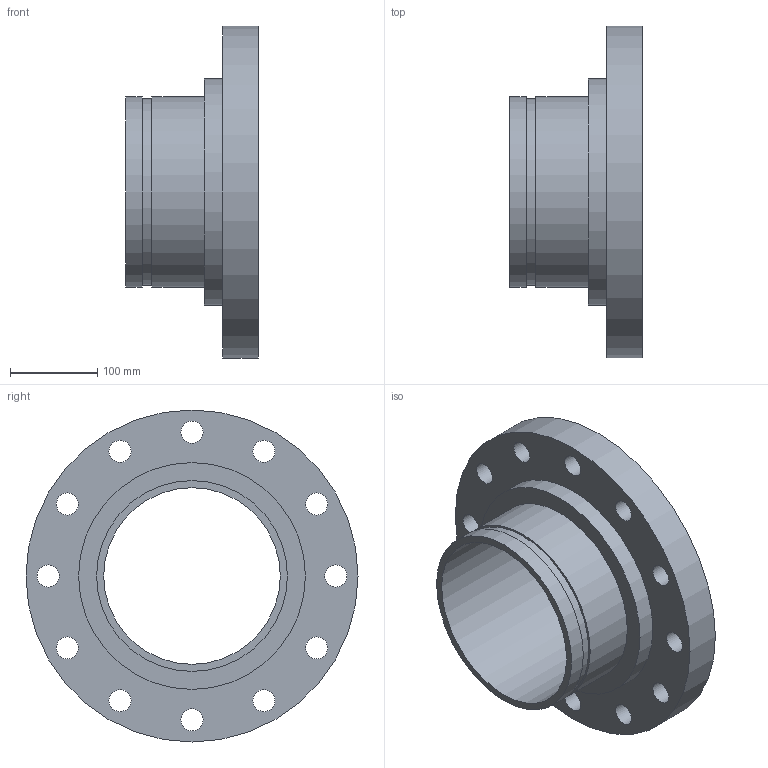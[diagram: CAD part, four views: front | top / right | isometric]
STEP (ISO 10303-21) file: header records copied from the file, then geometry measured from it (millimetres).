
FILE_DESCRIPTION(/* description */ ('VIC FLANGE ADAPTER No 46F','CAx-IF Rec.Pracs.---Representation and Presentation of Product Manufacturing Information (PMI)---4.0---2014-10-13'),/* implementation_level */ '2;1');
FILE_NAME(/* name */ 'C:\Users\kkamble\AppData\Roaming\Autodesk\ApplicationPlugins\Back Up\Victaulic_IPS_Flanged Adapter Nipple_CL 300 FF_No 46F (OGSxFLG)\Victaulic_IPS_Flanged Adapter Nipple_CL 300 FF_No 46F (OGSxFLG)_8 (200).stp',/* time_stamp */ '2020-07-26T22:25:03+06:00',/* author */ ('CONSTRUCTION PIPING SERVICES'),/* organization */ ('Victaulic'),/* preprocessor_version */ 'ST-DEVELOPER v17.2',/* originating_system */ 'Autodesk Inventor 2019',/* authorisation */ '');
FILE_SCHEMA (('AP242_MANAGED_MODEL_BASED_3D_ENGINEERING_MIM_LF { 1 0 10303 442 1 1 4 }'));
Length unit declared in the file: inch
Products named in the file (1): 046F-08.0
Bounding box: 152.4 x 381 x 381 mm (x, y, z)
Volume: 4021840.4 mm3; surface area: 419305.1 mm2
Topology: 1 solids, 1 shells, 24 faces, 66 edges, 48 vertices
Faces by surface type: cylinder 18, plane 6
Full cylindrical faces by diameter (mm): 25.4 x12, 202.717 x1, 214.401 x1, 219.075 x2, 260.35 x1, 381 x1
Entity records: 942 total; most frequent: DIRECTION 164, CARTESIAN_POINT 139, ORIENTED_EDGE 132, AXIS2_PLACEMENT_3D 73, EDGE_CURVE 66, EDGE_LOOP 54, CIRCLE 48, VERTEX_POINT 48
